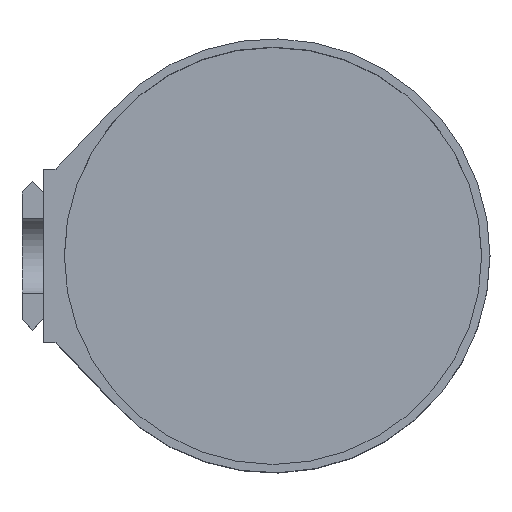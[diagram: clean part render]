
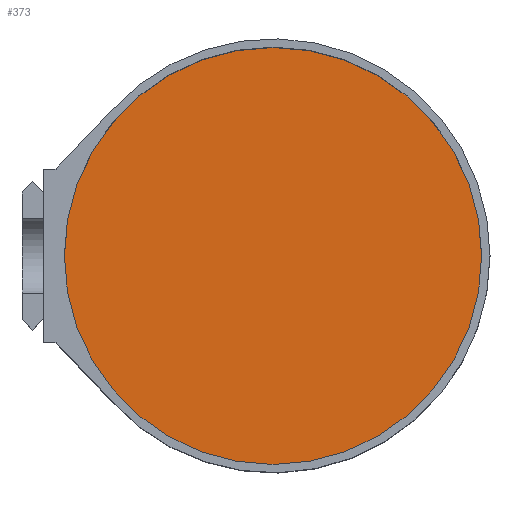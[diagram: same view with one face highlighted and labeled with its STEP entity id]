
A CAD part, top view. The second image highlights one B-rep face of the part: STEP entity #373.
In plain terms, the highlighted planar face has unit normal (0, 0, 1).
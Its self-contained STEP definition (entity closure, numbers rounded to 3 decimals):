
#112=FACE_OUTER_BOUND('',#134,.T.);
#134=EDGE_LOOP('',(#250));
#158=CIRCLE('',#410,50.);
#164=VERTEX_POINT('',#543);
#198=EDGE_CURVE('',#164,#164,#158,.T.);
#250=ORIENTED_EDGE('',*,*,#198,.F.);
#354=PLANE('',#409);
#373=ADVANCED_FACE('',(#112),#354,.F.);
#409=AXIS2_PLACEMENT_3D('',#542,#439,#440);
#410=AXIS2_PLACEMENT_3D('',#544,#441,#442);
#439=DIRECTION('center_axis',(0.,0.,-1.));
#440=DIRECTION('ref_axis',(1.,0.,0.));
#441=DIRECTION('center_axis',(0.,0.,-1.));
#442=DIRECTION('ref_axis',(-1.,0.,0.));
#542=CARTESIAN_POINT('Origin',(151.15,0.,-234.298));
#543=CARTESIAN_POINT('',(201.15,0.,-234.298));
#544=CARTESIAN_POINT('Origin',(151.15,0.,-234.298));
